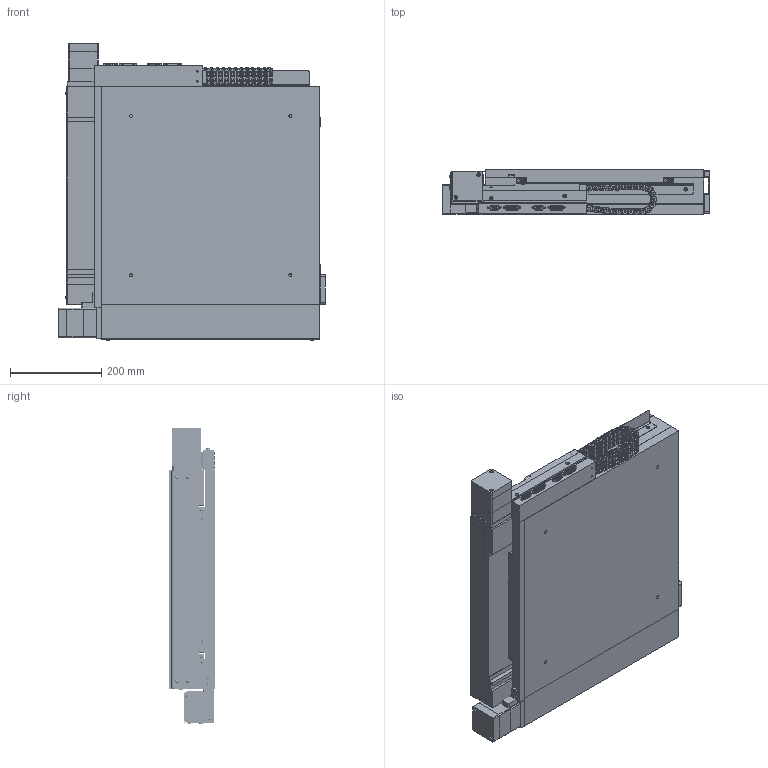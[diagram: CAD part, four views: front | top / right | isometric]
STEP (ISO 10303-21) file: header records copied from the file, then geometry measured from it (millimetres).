
FILE_DESCRIPTION (( 'STEP AP214' ), '1' );
FILE_NAME ('GXY-360-Dual Feedback-EXPORT.STEP', '2025-07-08T14:01:50', ( 'lab' ), ( '' ), 'SwSTEP 2.0', 'SolidWorks 2018', '' );
FILE_SCHEMA (( 'AUTOMOTIVE_DESIGN' ));
Length unit declared in the file: millimetre
Products named in the file (16): 1000015_file_export52; 1000018_file_export39; 1000003_file_export4; 1000014_file_export49; 1000007_file_export7; 1000002_file_export3; 1000012_file_export22; 1000013_file_export21; 1000001_file_export2; GXY-360-Dual Feedback-EXPORT; 1000016_file_export47; 1000017_file_export48; 1000019_file_export53; 1000004_file_export6; 1000020_file_export67; 1000006_file_export15
Assembly tree (58 placements, depth 2):
  GXY-360-Dual Feedback-EXPORT
    1000001_file_export2
    1000002_file_export3
    1000003_file_export4
    1000004_file_export6  x2
    1000006_file_export15  x6
    1000007_file_export7
    1000012_file_export22  x2
    1000013_file_export21  x2
    1000014_file_export49  x8
    1000015_file_export52  x2
    1000016_file_export47  x2
    1000017_file_export48
    1000018_file_export39
    1000019_file_export53  x4
    1000020_file_export67  x24
Bounding box: 586 x 99 x 652.14 mm (x, y, z)
Volume: 28423313.1 mm3; surface area: 2800738.6 mm2
Topology: 175 solids, 175 shells, 7047 faces, 17726 edges, 11193 vertices
Faces by surface type: plane 4266, cylinder 2011, cone 408, bspline 340, torus 22
Entity records: 93938 total; most frequent: CARTESIAN_POINT 20420, DIRECTION 14011, ORIENTED_EDGE 13458, EDGE_CURVE 6729, AXIS2_PLACEMENT_3D 4732, LINE 4547, VECTOR 4547, VERTEX_POINT 4153
